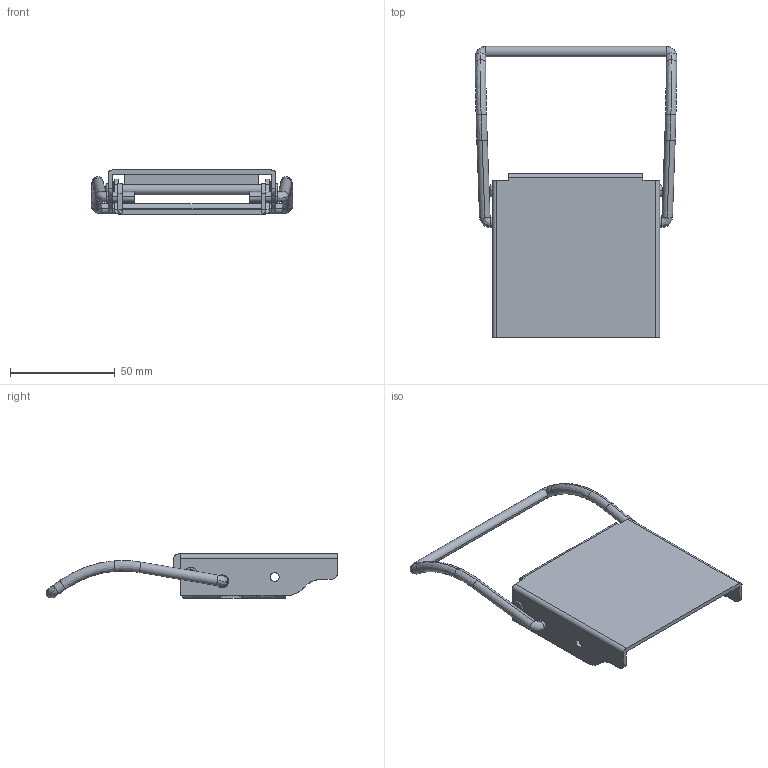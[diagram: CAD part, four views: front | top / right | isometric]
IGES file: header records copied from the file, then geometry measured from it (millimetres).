
Start section: SolidWorks IGES file using analytic representation for surfaces
Global section: file name: C:\Users\cbrechard.SAV\Desktop\GE 91\GE 91.IGS; native system: SolidWorks 2013; preprocessor: SolidWorks 2013; author: cbrechard; date: 150422.173638; units: millimetre
Bounding box: 96.03 x 138.89 x 21 mm (x, y, z)
Surface area: 33722 mm2 (no closed solid volume)
Topology: 0 solids, 0 shells, 173 faces, 2599 edges, 2596 vertices
Faces by surface type: revolution 89, bspline 84
